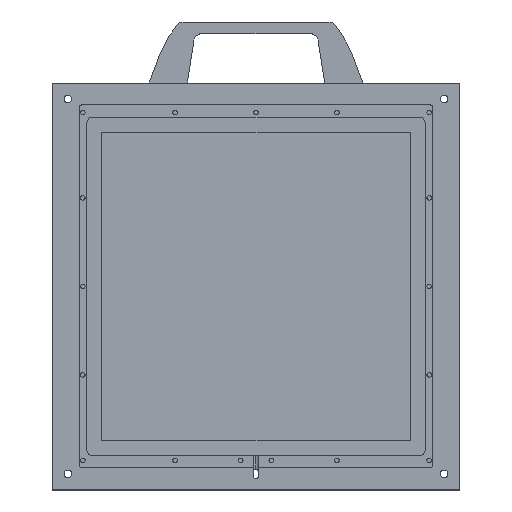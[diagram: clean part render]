
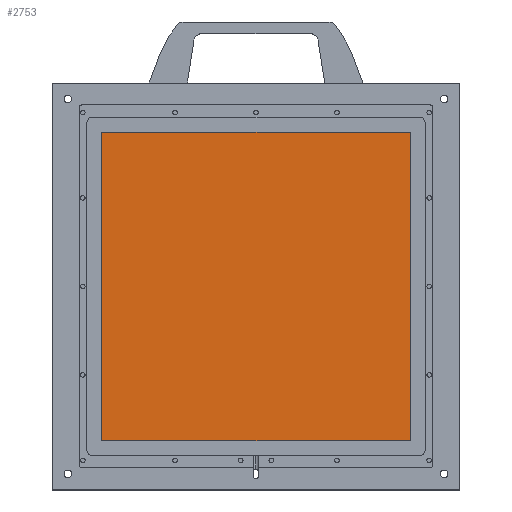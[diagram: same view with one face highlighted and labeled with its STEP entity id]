
A CAD part, top view. The second image highlights one B-rep face of the part: STEP entity #2753.
In plain terms, the highlighted planar face has unit normal (0, 0, 1).
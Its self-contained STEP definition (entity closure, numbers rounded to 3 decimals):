
#1182 = VECTOR ( 'NONE', #2732, 1000. ) ;
#1190 = VECTOR ( 'NONE', #2659, 1000. ) ;
#1202 = LINE ( 'NONE', #2730, #1213 ) ;
#1212 = LINE ( 'NONE', #2705, #1182 ) ;
#1213 = VECTOR ( 'NONE', #2731, 1000. ) ;
#1222 = LINE ( 'NONE', #2655, #1190 ) ;
#1268 = VECTOR ( 'NONE', #3070, 1000. ) ;
#1282 = LINE ( 'NONE', #3081, #1268 ) ;
#2655 = CARTESIAN_POINT ( 'NONE',  ( 236.24, 126.083, -8.55 ) ) ;
#2659 = DIRECTION ( 'NONE',  ( 0., 1., 0. ) ) ;
#2705 = CARTESIAN_POINT ( 'NONE',  ( 135.24, 226.448, -8.55 ) ) ;
#2730 = CARTESIAN_POINT ( 'NONE',  ( 135.24, 24.448, -8.55 ) ) ;
#2731 = DIRECTION ( 'NONE',  ( 1., 0., 0. ) ) ;
#2732 = DIRECTION ( 'NONE',  ( -1., 0., 0. ) ) ;
#2753 = ADVANCED_FACE ( 'NONE', ( #5410 ), #4084, .T. ) ;
#3070 = DIRECTION ( 'NONE',  ( 0., -1., 0. ) ) ;
#3081 = CARTESIAN_POINT ( 'NONE',  ( 34.24, 126.083, -8.55 ) ) ;
#4078 = CARTESIAN_POINT ( 'NONE',  ( 135.24, 126.083, -8.55 ) ) ;
#4079 = DIRECTION ( 'NONE',  ( 1., 0., 0. ) ) ;
#4084 = PLANE ( 'NONE',  #5667 ) ;
#4099 = DIRECTION ( 'NONE',  ( 0., 0., 1. ) ) ;
#4300 = CARTESIAN_POINT ( 'NONE',  ( 34.24, 24.448, -8.55 ) ) ;
#4332 = CARTESIAN_POINT ( 'NONE',  ( 236.24, 226.448, -8.55 ) ) ;
#4345 = CARTESIAN_POINT ( 'NONE',  ( 34.24, 226.448, -8.55 ) ) ;
#4348 = CARTESIAN_POINT ( 'NONE',  ( 236.24, 24.448, -8.55 ) ) ;
#5188 = VERTEX_POINT ( 'NONE', #4300 ) ;
#5204 = VERTEX_POINT ( 'NONE', #4332 ) ;
#5230 = VERTEX_POINT ( 'NONE', #4348 ) ;
#5240 = VERTEX_POINT ( 'NONE', #4345 ) ;
#5410 = FACE_OUTER_BOUND ( 'NONE', #7763, .T. ) ;
#5667 = AXIS2_PLACEMENT_3D ( 'NONE', #4078, #4099, #4079 ) ;
#6887 = ORIENTED_EDGE ( 'NONE', *, *, #10265, .T. ) ;
#6903 = ORIENTED_EDGE ( 'NONE', *, *, #10279, .T. ) ;
#6942 = ORIENTED_EDGE ( 'NONE', *, *, #10276, .T. ) ;
#6943 = ORIENTED_EDGE ( 'NONE', *, *, #10312, .T. ) ;
#7763 = EDGE_LOOP ( 'NONE', ( #6942, #6943, #6903, #6887 ) ) ;
#10265 = EDGE_CURVE ( 'NONE', #5230, #5204, #1222, .T. ) ;
#10276 = EDGE_CURVE ( 'NONE', #5204, #5240, #1212, .T. ) ;
#10279 = EDGE_CURVE ( 'NONE', #5188, #5230, #1202, .T. ) ;
#10312 = EDGE_CURVE ( 'NONE', #5240, #5188, #1282, .T. ) ;
